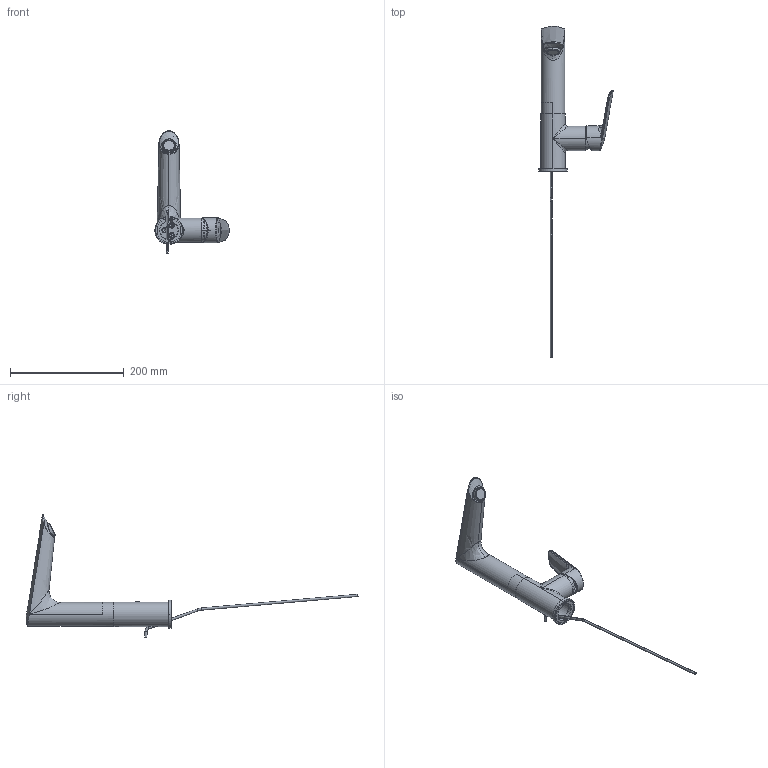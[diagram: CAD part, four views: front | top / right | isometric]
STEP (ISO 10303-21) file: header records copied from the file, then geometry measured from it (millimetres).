
FILE_DESCRIPTION((''),'2;1');
FILE_NAME('F3011FCR_ASM','2017-01-31T',('ivanv'),(''),'CREO PARAMETRIC BY PTC INC, 2015290','CREO PARAMETRIC BY PTC INC, 2015290','');
FILE_SCHEMA(('CONFIG_CONTROL_DESIGN'));
Length unit declared in the file: millimetre
Products named in the file (17): 3781TOR_LAVABO_SERIE_4; 4618TAMC_CAPPUCCIO_PER_CUCINA; 4753_LEVA_LAVABO_00; 5248_GRANO_PUNTA_CONICA_M5X8; 7384_BOTTONE_CROMATO_D_5_5; 6654_BASETTA_SERIE_4_ZAMA; 6654_BASETTA_PIU_SPUGNA_ASM; 7374_ASTA_SCARICO_SPLIT_QUAD; 6803_RACC_CANNA_LAVELLO_DE_SOTO; 5106_ANEL_TAGL_CORDA_2_50_FINTO; 5023_OR_14_X_2_AF0; 5092ACS_OR_19_X_2_AF0; 5092ACS_OR_19_X_2_AF1; 6803MON_RACC_ATTACCO_CANNA_LAV_ASM; 4820CRO_BOCCA_FUSA_LAVABO_SPOT; 5751_AERATORE_M24X1; F3011FCR_ASM
Assembly tree (17 placements, depth 3):
  F3011FCR_ASM
    3781TOR_LAVABO_SERIE_4
    4618TAMC_CAPPUCCIO_PER_CUCINA
    4753_LEVA_LAVABO_00
    5248_GRANO_PUNTA_CONICA_M5X8
    7384_BOTTONE_CROMATO_D_5_5  x2
    6654_BASETTA_PIU_SPUGNA_ASM
      6654_BASETTA_SERIE_4_ZAMA
    7374_ASTA_SCARICO_SPLIT_QUAD
    6803MON_RACC_ATTACCO_CANNA_LAV_ASM
      6803_RACC_CANNA_LAVELLO_DE_SOTO
      5106_ANEL_TAGL_CORDA_2_50_FINTO
      5023_OR_14_X_2_AF0
      5092ACS_OR_19_X_2_AF0
      5092ACS_OR_19_X_2_AF1
    4820CRO_BOCCA_FUSA_LAVABO_SPOT
    5751_AERATORE_M24X1
Bounding box: 130.79 x 583.79 x 215.49 mm (x, y, z)
Volume: 282964.4 mm3; surface area: 140108.5 mm2
Topology: 15 solids, 15 shells, 1499 faces, 3898 edges, 2462 vertices
Faces by surface type: plane 858, bspline 242, cylinder 171, cone 100, extrusion 62, torus 52, sphere 14
Entity records: 58314 total; most frequent: CARTESIAN_POINT 24840, ORIENTED_EDGE 7576, DIRECTION 5743, EDGE_CURVE 3788, VERTEX_POINT 2409, VECTOR 2149, LINE 2087, AXIS2_PLACEMENT_3D 1797
